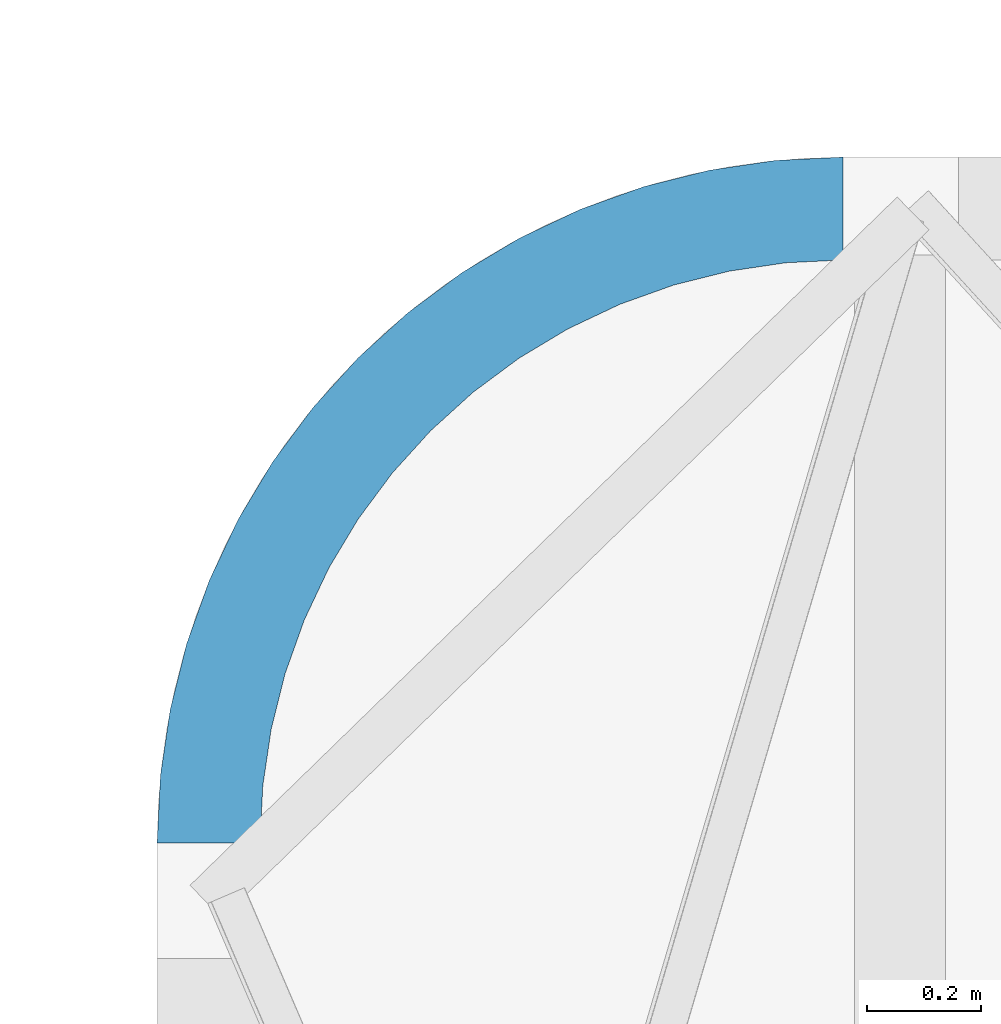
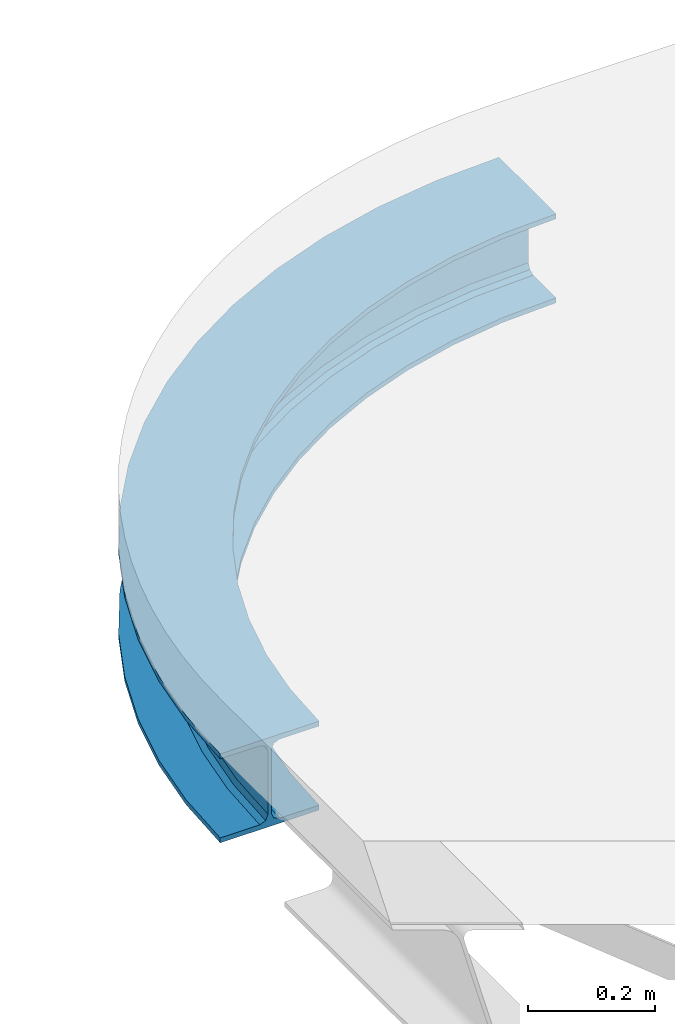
# One storey, part 13 of 14: 1 beam.
"""IFC2X3 building model written with IfcOpenShell, lengths in millimetres."""

from ifc_helpers import new_model, entity, si_unit, converted_unit, derived_unit, direction, frame, origin, place, context, subcontext, project, spatial, faceted_brep, material, type_object, element, save


model = new_model("IFC2X3")

# Units and contexts
model_context = context("Model", 3, precision=0.01, world=origin(), true_north=direction((6.123031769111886e-17, 1.0)))
body_context = subcontext(model_context, "Body", "Model", "MODEL_VIEW")
ifc_project = project(units=[si_unit("LENGTHUNIT", "METRE", prefix="MILLI"), si_unit("AREAUNIT", "SQUARE_METRE"), si_unit("VOLUMEUNIT", "CUBIC_METRE"), derived_unit("MASSDENSITYUNIT", [(si_unit("MASSUNIT", "GRAM", prefix="KILO"), 1), (si_unit("LENGTHUNIT", "METRE"), -3)]), si_unit("MASSUNIT", "GRAM", prefix="KILO"), converted_unit("PLANEANGLEUNIT", "DEGREE", entity("IfcPlaneAngleMeasure", 0.017453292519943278), si_unit("PLANEANGLEUNIT", "RADIAN"), dimensions=[0, 0, 0, 0, 0, 0, 0])], contexts=[model_context])

# Site, building, storey
site_placement = place(None, origin())
site = spatial("IfcSite", under=ifc_project, at=site_placement, Name="Default", CompositionType="ELEMENT")
building_placement = place(site_placement, origin())
building = spatial("IfcBuilding", under=site, at=building_placement, Name="AT constructie", CompositionType="ELEMENT")
storey_placement = place(building_placement, frame((0.0, 0.0, 12043.0)))
storey = spatial("IfcBuildingStorey", under=building, at=storey_placement, Name="03 derde verdieping", CompositionType="ELEMENT", Elevation=12043.0)

# Beam
ifc_material = material(Name="h2_staal_S355")
beam_type = type_object("IfcBeamType", Name="balk HE_gen_HEA180", PredefinedType="NOTDEFINED")
beam_placement = place(storey_placement, frame((85626.87463111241, 30191.043508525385, 0.0), z_axis=(0.0, 0.0, 1.0), x_axis=(-1.0, 0.0, 0.0)))
element("IfcBeam", 1, at=beam_placement, inside=storey, type_object=beam_type, material=ifc_material, Name="NLRS_28_SF_LIB_balk HEA_gen_AT:balk HE_gen_HEA180", ObjectType="NLRS_28_SF_LIB_balk HEA_gen_AT:balk HE_gen_HEA180", context=body_context, shape_type="Brep", body=[
    faceted_brep([(117.62056839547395, -1194.221672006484, 0.0), (99.97748313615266, -1015.088421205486, 0.0), (0.0, -1020.0, 0.0), (0.0, -1200.0, 0.0), (99.97748313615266, -1015.088421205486, -9.500000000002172), (0.0, -1020.0, -9.500000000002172), (107.03471723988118, -1086.7417215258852, -9.500000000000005), (0.0, -1092.0, -9.500000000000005), (108.0743460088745, -1097.2972495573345, -13.893398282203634), (0.0, -1102.6066017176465, -13.893398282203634), (108.50497434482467, -1101.669492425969, -24.500000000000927), (0.0, -1107.0, -24.500000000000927), (108.50497434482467, -1101.669492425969, -146.50000000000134), (0.0, -1107.0, -146.50000000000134), (108.0743460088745, -1097.2972495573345, -157.10660171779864), (0.0, -1102.6066017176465, -157.10660171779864), (107.03471723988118, -1086.7417215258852, -161.50000000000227), (0.0, -1092.0, -161.50000000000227), (99.97748313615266, -1015.088421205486, -161.50000000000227), (0.0, -1020.0, -161.50000000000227), (99.97748313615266, -1015.088421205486, -171.0), (0.0, -1020.0, -171.0), (117.62056839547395, -1194.221672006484, -171.0), (0.0, -1200.0, -171.0), (117.62056839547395, -1194.221672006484, -161.50000000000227), (0.0, -1200.0, -161.50000000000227), (110.56333429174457, -1122.568371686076, -161.50000000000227), (0.0, -1128.0, -161.50000000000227), (109.52370552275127, -1112.0128436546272, -157.10660171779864), (0.0, -1117.3933982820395, -157.10660171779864), (109.0930771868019, -1107.6406007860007, -146.50000000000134), (0.0, -1113.0, -146.50000000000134), (109.09307718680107, -1107.6406007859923, -24.500000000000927), (0.0, -1113.0, -24.500000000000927), (109.52370552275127, -1112.0128436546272, -13.893398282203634), (0.0, -1117.3933982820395, -13.893398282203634), (110.56333429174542, -1122.5683716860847, -9.500000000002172), (0.0, -1128.0, -9.500000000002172), (117.62056839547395, -1194.221672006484, -9.500000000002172), (0.0, -1200.0, -9.500000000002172), (234.1083864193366, -1176.9423364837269, 0.0), (198.99212845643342, -1000.4009860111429, 0.0), (198.99212845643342, -1000.4009860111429, -9.500000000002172), (213.03863164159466, -1071.0175262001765, -9.500000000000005), (215.10787698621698, -1081.4203250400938, -13.893398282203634), (215.96498647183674, -1085.7293054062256, -24.500000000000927), (215.96498647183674, -1085.7293054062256, -146.50000000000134), (215.10787698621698, -1081.4203250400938, -157.10660171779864), (213.03863164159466, -1071.0175262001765, -161.50000000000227), (198.99212845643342, -1000.4009860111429, -161.50000000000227), (198.99212845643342, -1000.4009860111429, -171.0), (234.1083864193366, -1176.9423364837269, -171.0), (234.1083864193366, -1176.9423364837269, -161.50000000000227), (220.0618832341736, -1106.3257962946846, -161.50000000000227), (217.99263788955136, -1095.9229974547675, -157.10660171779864), (217.13552840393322, -1091.6140170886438, -146.50000000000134), (217.13552840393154, -1091.6140170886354, -24.500000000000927), (217.99263788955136, -1095.9229974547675, -13.893398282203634), (220.0618832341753, -1106.325796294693, -9.500000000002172), (234.1083864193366, -1176.9423364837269, -9.500000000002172), (348.3416127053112, -1148.328402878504, 0.0), (296.0903707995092, -976.0791424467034, 0.0), (296.0903707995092, -976.0791424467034, -9.500000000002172), (316.99086756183, -1044.9788466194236, -9.500000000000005), (320.0698015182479, -1055.1287316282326, -13.893398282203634), (321.345137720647, -1059.3329516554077, -24.500000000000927), (321.345137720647, -1059.3329516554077, -146.50000000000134), (320.0698015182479, -1055.1287316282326, -157.10660171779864), (316.99086756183, -1044.9788466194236, -161.50000000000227), (296.0903707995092, -976.0791424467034, -161.50000000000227), (296.0903707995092, -976.0791424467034, -171.0), (348.3416127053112, -1148.328402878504, -171.0), (348.3416127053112, -1148.328402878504, -161.50000000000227), (327.44111594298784, -1079.4286987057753, -161.50000000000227), (324.36218198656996, -1069.2788136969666, -157.10660171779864), (323.08684578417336, -1065.0745936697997, -146.50000000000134), (323.08684578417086, -1065.0745936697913, -24.500000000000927), (324.36218198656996, -1069.2788136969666, -13.893398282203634), (327.44111594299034, -1079.4286987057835, -9.500000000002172), (348.3416127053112, -1148.328402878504, -9.500000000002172), (459.22011883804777, -1108.6554390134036, 0.0), (390.3371010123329, -942.3571231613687, 0.0), (390.3371010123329, -942.3571231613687, -9.500000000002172), (417.8903081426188, -1008.8764495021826, -9.500000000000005), (421.9492788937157, -1018.6756717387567, -13.893398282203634), (423.63055962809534, -1022.7346424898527, -24.500000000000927), (423.63055962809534, -1022.7346424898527, -146.50000000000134), (421.9492788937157, -1018.6756717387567, -157.10660171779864), (417.8903081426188, -1008.8764495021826, -161.50000000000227), (390.3371010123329, -942.3571231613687, -161.50000000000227), (390.3371010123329, -942.3571231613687, -171.0), (459.22011883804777, -1108.6554390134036, -171.0), (459.22011883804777, -1108.6554390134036, -161.50000000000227), (431.66691170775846, -1042.1361126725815, -161.50000000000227), (427.6079409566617, -1032.3368904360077, -157.10660171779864), (425.92666022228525, -1028.2779196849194, -146.50000000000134), (425.92666022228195, -1028.2779196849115, -24.500000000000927), (427.6079409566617, -1032.3368904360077, -13.893398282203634), (431.66691170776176, -1042.1361126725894, -9.500000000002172), (459.22011883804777, -1108.6554390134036, -9.500000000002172), (565.6760841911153, -1058.3055172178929, 0.0), (480.8246715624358, -899.559689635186, 0.0), (480.8246715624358, -899.559689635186, -9.500000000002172), (514.7652366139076, -963.0580206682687, -9.500000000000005), (519.7651540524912, -972.41220826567, -13.893398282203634), (521.8361876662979, -976.2868396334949, -24.500000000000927), (521.8361876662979, -976.2868396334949, -146.50000000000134), (519.7651540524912, -972.41220826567, -157.10660171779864), (514.7652366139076, -963.0580206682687, -161.50000000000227), (480.8246715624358, -899.559689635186, -161.50000000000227), (480.8246715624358, -899.559689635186, -171.0), (565.6760841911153, -1058.3055172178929, -171.0), (565.6760841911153, -1058.3055172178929, -161.50000000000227), (531.7355191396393, -994.8071861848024, -161.50000000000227), (526.7356017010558, -985.4529985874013, -157.10660171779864), (524.6645680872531, -981.5783672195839, -146.50000000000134), (524.664568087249, -981.5783672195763, -24.500000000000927), (526.7356017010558, -985.4529985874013, -13.893398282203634), (531.7355191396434, -994.80718618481, -9.500000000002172), (565.6760841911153, -1058.3055172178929, -9.500000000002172), (666.6842796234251, -997.7635347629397, 0.0), (566.6816376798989, -848.0990045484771, 0.0), (566.6816376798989, -848.0990045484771, -9.500000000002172), (606.6826944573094, -907.9648166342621, -9.500000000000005), (612.5754066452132, -916.7838836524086, -13.893398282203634), (615.0162479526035, -920.4368608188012, -24.500000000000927), (615.0162479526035, -920.4368608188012, -146.50000000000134), (612.5754066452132, -916.7838836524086, -157.10660171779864), (606.6826944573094, -907.9648166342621, -161.50000000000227), (566.6816376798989, -848.0990045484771, -161.50000000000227), (566.6816376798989, -848.0990045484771, -171.0), (666.6842796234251, -997.7635347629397, -171.0), (666.6842796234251, -997.7635347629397, -161.50000000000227), (626.6832228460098, -937.8977226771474, -161.50000000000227), (620.7905106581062, -929.078655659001, -157.10660171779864), (618.3496693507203, -925.4256784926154, -146.50000000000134), (618.3496693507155, -925.4256784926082, -24.500000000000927), (620.7905106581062, -929.078655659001, -13.893398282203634), (626.6832228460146, -937.8977226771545, -9.500000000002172), (666.6842796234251, -997.7635347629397, -9.500000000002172), (761.271940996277, -927.6125440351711, 0.0), (647.0811498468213, -788.4706624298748, 0.0), (647.0811498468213, -788.4706624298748, -9.500000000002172), (692.7574663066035, -844.1274150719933, -9.500000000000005), (699.4862232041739, -852.3264290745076, -13.893398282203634), (702.2733655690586, -855.7225718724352, -24.500000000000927), (702.2733655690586, -855.7225718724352, -146.50000000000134), (699.4862232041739, -852.3264290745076, -157.10660171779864), (692.7574663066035, -844.1274150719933, -161.50000000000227), (647.0811498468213, -788.4706624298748, -161.50000000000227), (647.0811498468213, -788.4706624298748, -171.0), (761.271940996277, -927.6125440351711, -171.0), (761.271940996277, -927.6125440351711, -161.50000000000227), (715.5956245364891, -871.9557913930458, -161.50000000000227), (708.8668676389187, -863.7567773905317, -157.10660171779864), (706.0797252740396, -860.3606345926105, -146.50000000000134), (706.0797252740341, -860.3606345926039, -24.500000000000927), (708.8668676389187, -863.7567773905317, -13.893398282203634), (715.5956245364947, -871.9557913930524, -9.500000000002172), (761.271940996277, -927.6125440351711, -9.500000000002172), (848.528137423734, -848.5281374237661, 0.0), (721.2489168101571, -721.2489168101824, 0.0), (721.2489168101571, -721.2489168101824, -9.500000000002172), (772.1606050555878, -772.1606050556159, -9.500000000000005), (779.6606050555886, -779.660605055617, -13.893398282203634), (782.7672067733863, -782.7672067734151, -24.500000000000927), (782.7672067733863, -782.7672067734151, -146.50000000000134), (779.6606050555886, -779.660605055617, -157.10660171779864), (772.1606050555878, -772.1606050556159, -161.50000000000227), (721.2489168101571, -721.2489168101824, -161.50000000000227), (721.2489168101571, -721.2489168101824, -171.0), (848.528137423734, -848.5281374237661, -171.0), (848.528137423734, -848.5281374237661, -161.50000000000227), (797.616449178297, -797.6164491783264, -161.50000000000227), (790.1164491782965, -790.1164491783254, -157.10660171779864), (787.0098474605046, -787.0098474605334, -146.50000000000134), (787.0098474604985, -787.0098474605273, -24.500000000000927), (790.1164491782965, -790.1164491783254, -13.893398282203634), (797.6164491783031, -797.6164491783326, -9.500000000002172), (848.528137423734, -848.5281374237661, -9.500000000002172), (927.6125440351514, -761.2719409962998, 0.0), (788.47066242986, -647.0811498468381, 0.0), (788.47066242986, -647.0811498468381, -9.500000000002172), (844.1274150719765, -692.7574663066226, -9.500000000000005), (852.3264290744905, -699.4862232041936, -13.893398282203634), (855.722571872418, -702.2733655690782, -24.500000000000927), (855.722571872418, -702.2733655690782, -146.50000000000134), (852.3264290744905, -699.4862232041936, -157.10660171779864), (844.1274150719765, -692.7574663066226, -161.50000000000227), (788.47066242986, -647.0811498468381, -161.50000000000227), (788.47066242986, -647.0811498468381, -171.0), (927.6125440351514, -761.2719409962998, -171.0), (927.6125440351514, -761.2719409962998, -161.50000000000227), (871.9557913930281, -715.5956245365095, -161.50000000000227), (863.7567773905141, -708.8668676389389, -157.10660171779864), (860.3606345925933, -706.0797252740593, -146.50000000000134), (860.3606345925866, -706.0797252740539, -24.500000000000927), (863.7567773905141, -708.8668676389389, -13.893398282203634), (871.9557913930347, -715.595624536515, -9.500000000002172), (927.6125440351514, -761.2719409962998, -9.500000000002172), (997.7635347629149, -666.6842796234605, 0.0), (848.0990045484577, -566.6816376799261, 0.0), (848.0990045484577, -566.6816376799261, -9.500000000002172), (907.9648166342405, -606.6826944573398, -9.500000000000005), (916.7838836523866, -612.575406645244, -13.893398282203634), (920.4368608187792, -615.0162479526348, -24.500000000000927), (920.4368608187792, -615.0162479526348, -146.50000000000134), (916.7838836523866, -612.575406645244, -157.10660171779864), (907.9648166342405, -606.6826944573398, -161.50000000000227), (848.0990045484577, -566.6816376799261, -161.50000000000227), (848.0990045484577, -566.6816376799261, -171.0), (997.7635347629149, -666.6842796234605, -171.0), (997.7635347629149, -666.6842796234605, -161.50000000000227), (937.8977226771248, -626.6832228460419, -161.50000000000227), (929.0786556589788, -620.7905106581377, -157.10660171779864), (925.4256784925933, -618.3496693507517, -146.50000000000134), (925.425678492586, -618.3496693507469, -24.500000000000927), (929.0786556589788, -620.7905106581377, -13.893398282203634), (937.8977226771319, -626.6832228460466, -9.500000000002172), (997.7635347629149, -666.6842796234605, -9.500000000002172), (1058.305517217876, -565.6760841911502, 0.0), (899.5596896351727, -480.8246715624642, 0.0), (899.5596896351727, -480.8246715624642, -9.500000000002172), (963.0580206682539, -514.7652366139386, -9.500000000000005), (972.4122082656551, -519.7651540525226, -13.893398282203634), (976.28683963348, -521.8361876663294, -24.500000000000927), (976.28683963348, -521.8361876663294, -146.50000000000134), (972.4122082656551, -519.7651540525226, -157.10660171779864), (963.0580206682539, -514.7652366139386, -161.50000000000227), (899.5596896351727, -480.8246715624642, -161.50000000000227), (899.5596896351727, -480.8246715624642, -171.0), (1058.305517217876, -565.6760841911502, -171.0), (1058.305517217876, -565.6760841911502, -161.50000000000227), (994.807186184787, -531.7355191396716, -161.50000000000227), (985.4529985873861, -526.7356017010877, -157.10660171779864), (981.5783672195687, -524.6645680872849, -146.50000000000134), (981.5783672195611, -524.6645680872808, -24.500000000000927), (985.4529985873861, -526.7356017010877, -13.893398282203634), (994.8071861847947, -531.7355191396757, -9.500000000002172), (1058.305517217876, -565.6760841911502, -9.500000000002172), (1108.655439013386, -459.22011883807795, 0.0), (942.3571231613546, -390.33710101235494, 0.0), (942.3571231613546, -390.33710101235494, -9.500000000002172), (1008.876449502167, -417.8903081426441, -9.500000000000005), (1018.675671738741, -421.9492788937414, -13.893398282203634), (1022.734642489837, -423.63055962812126, -24.500000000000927), (1022.734642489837, -423.63055962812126, -146.50000000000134), (1018.675671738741, -421.9492788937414, -157.10660171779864), (1008.876449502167, -417.8903081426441, -161.50000000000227), (942.3571231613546, -390.33710101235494, -161.50000000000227), (942.3571231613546, -390.33710101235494, -171.0), (1108.655439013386, -459.22011883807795, -171.0), (1108.655439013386, -459.22011883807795, -161.50000000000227), (1042.1361126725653, -431.66691170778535, -161.50000000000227), (1032.3368904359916, -427.6079409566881, -157.10660171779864), (1028.2779196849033, -425.9266602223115, -146.50000000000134), (1028.2779196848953, -425.92666022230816, -24.500000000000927), (1032.3368904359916, -427.6079409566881, -13.893398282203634), (1042.1361126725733, -431.66691170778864, -9.500000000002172), (1108.655439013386, -459.22011883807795, -9.500000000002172), (1148.32840287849, -348.3416127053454, 0.0), (976.079142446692, -296.09037079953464, 0.0), (976.079142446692, -296.09037079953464, -9.500000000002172), (1044.9788466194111, -316.9908675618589, -9.500000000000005), (1055.1287316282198, -320.0698015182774, -13.893398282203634), (1059.332951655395, -321.3451377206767, -24.500000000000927), (1059.332951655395, -321.3451377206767, -146.50000000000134), (1055.1287316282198, -320.0698015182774, -157.10660171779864), (1044.9788466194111, -316.9908675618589, -161.50000000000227), (976.079142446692, -296.09037079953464, -161.50000000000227), (976.079142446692, -296.09037079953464, -171.0), (1148.32840287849, -348.3416127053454, -171.0), (1148.32840287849, -348.3416127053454, -161.50000000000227), (1079.4286987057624, -327.4411159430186, -161.50000000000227), (1069.2788136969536, -324.36218198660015, -157.10660171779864), (1065.0745936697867, -323.08684578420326, -146.50000000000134), (1065.0745936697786, -323.08684578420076, -24.500000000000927), (1069.2788136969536, -324.36218198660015, -13.893398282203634), (1079.4286987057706, -327.4411159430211, -9.500000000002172), (1148.32840287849, -348.3416127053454, -9.500000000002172), (1176.9423364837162, -234.10838641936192, 0.0), (1000.4009860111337, -198.99212845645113, 0.0), (1000.4009860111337, -198.99212845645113, -9.500000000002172), (1071.0175262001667, -213.0386316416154, -9.500000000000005), (1081.420325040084, -215.1078769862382, -13.893398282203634), (1085.7293054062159, -215.96498647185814, -24.500000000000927), (1085.7293054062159, -215.96498647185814, -146.50000000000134), (1081.420325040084, -215.1078769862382, -157.10660171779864), (1071.0175262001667, -213.0386316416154, -161.50000000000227), (1000.4009860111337, -198.99212845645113, -161.50000000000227), (1000.4009860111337, -198.99212845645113, -171.0), (1176.9423364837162, -234.10838641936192, -171.0), (1176.9423364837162, -234.10838641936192, -161.50000000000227), (1106.3257962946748, -220.0618832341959, -161.50000000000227), (1095.9229974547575, -217.99263788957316, -157.10660171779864), (1091.614017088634, -217.13552840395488, -146.50000000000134), (1091.6140170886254, -217.1355284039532, -24.500000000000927), (1095.9229974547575, -217.99263788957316, -13.893398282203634), (1106.3257962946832, -220.06188323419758, -9.500000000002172), (1176.9423364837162, -234.10838641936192, -9.500000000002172), (1194.221672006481, -117.62056839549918, 0.0), (1015.0884212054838, -99.97748313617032, 0.0), (1015.0884212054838, -99.97748313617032, -9.500000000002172), (1086.7417215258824, -107.03471723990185, -9.500000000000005), (1097.2972495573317, -108.07434600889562, -13.893398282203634), (1101.6694924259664, -108.50497434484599, -24.500000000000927), (1101.6694924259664, -108.50497434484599, -146.50000000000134), (1097.2972495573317, -108.07434600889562, -157.10660171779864), (1086.7417215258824, -107.03471723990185, -161.50000000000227), (1015.0884212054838, -99.97748313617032, -161.50000000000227), (1015.0884212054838, -99.97748313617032, -171.0), (1194.221672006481, -117.62056839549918, -171.0), (1194.221672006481, -117.62056839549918, -161.50000000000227), (1122.5683716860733, -110.56333429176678, -161.50000000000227), (1112.0128436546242, -109.52370552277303, -157.10660171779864), (1107.640600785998, -109.09307718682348, -146.50000000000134), (1107.6406007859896, -109.09307718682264, -24.500000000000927), (1112.0128436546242, -109.52370552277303, -13.893398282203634), (1122.568371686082, -110.56333429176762, -9.500000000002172), (1194.221672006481, -117.62056839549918, -9.500000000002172), (1200.0, 0.0, 0.0), (1020.0, 0.0, 0.0), (1020.0, 0.0, -9.500000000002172), (1092.0, 0.0, -9.500000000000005), (1102.606601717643, 0.0, -13.893398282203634), (1107.0, 0.0, -24.500000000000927), (1107.0, 0.0, -146.50000000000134), (1102.606601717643, 0.0, -157.10660171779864), (1092.0, 0.0, -161.50000000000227), (1020.0, 0.0, -161.50000000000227), (1020.0, 0.0, -171.0), (1200.0, 0.0, -171.0), (1200.0, 0.0, -161.50000000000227), (1128.0, 0.0, -161.50000000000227), (1117.3933982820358, 0.0, -157.10660171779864), (1113.0, 0.0, -146.50000000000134), (1113.0, 0.0, -24.500000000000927), (1117.3933982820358, 0.0, -13.893398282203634), (1128.0, 0.0, -9.500000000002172), (1200.0, 0.0, -9.500000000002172)], [[[0, 1, 2, 3]], [[1, 4, 5, 2]], [[4, 6, 7, 5]], [[6, 8, 9, 7]], [[8, 10, 11, 9]], [[10, 12, 13, 11]], [[12, 14, 15, 13]], [[14, 16, 17, 15]], [[16, 18, 19, 17]], [[18, 20, 21, 19]], [[20, 22, 23, 21]], [[22, 24, 25, 23]], [[24, 26, 27, 25]], [[26, 28, 29, 27]], [[28, 30, 31, 29]], [[30, 32, 33, 31]], [[32, 34, 35, 33]], [[34, 36, 37, 35]], [[36, 38, 39, 37]], [[38, 0, 3, 39]], [[40, 41, 1, 0]], [[41, 42, 4, 1]], [[42, 43, 6, 4]], [[43, 44, 8, 6]], [[44, 45, 10, 8]], [[45, 46, 12, 10]], [[46, 47, 14, 12]], [[47, 48, 16, 14]], [[48, 49, 18, 16]], [[49, 50, 20, 18]], [[50, 51, 22, 20]], [[51, 52, 24, 22]], [[52, 53, 26, 24]], [[53, 54, 28, 26]], [[54, 55, 30, 28]], [[55, 56, 32, 30]], [[56, 57, 34, 32]], [[57, 58, 36, 34]], [[58, 59, 38, 36]], [[59, 40, 0, 38]], [[60, 61, 41, 40]], [[61, 62, 42, 41]], [[62, 63, 43, 42]], [[63, 64, 44, 43]], [[64, 65, 45, 44]], [[65, 66, 46, 45]], [[66, 67, 47, 46]], [[67, 68, 48, 47]], [[68, 69, 49, 48]], [[69, 70, 50, 49]], [[70, 71, 51, 50]], [[71, 72, 52, 51]], [[72, 73, 53, 52]], [[73, 74, 54, 53]], [[74, 75, 55, 54]], [[75, 76, 56, 55]], [[76, 77, 57, 56]], [[77, 78, 58, 57]], [[78, 79, 59, 58]], [[79, 60, 40, 59]], [[80, 81, 61, 60]], [[81, 82, 62, 61]], [[82, 83, 63, 62]], [[83, 84, 64, 63]], [[84, 85, 65, 64]], [[85, 86, 66, 65]], [[86, 87, 67, 66]], [[87, 88, 68, 67]], [[88, 89, 69, 68]], [[89, 90, 70, 69]], [[90, 91, 71, 70]], [[91, 92, 72, 71]], [[92, 93, 73, 72]], [[93, 94, 74, 73]], [[94, 95, 75, 74]], [[95, 96, 76, 75]], [[96, 97, 77, 76]], [[97, 98, 78, 77]], [[98, 99, 79, 78]], [[99, 80, 60, 79]], [[100, 101, 81, 80]], [[101, 102, 82, 81]], [[102, 103, 83, 82]], [[103, 104, 84, 83]], [[104, 105, 85, 84]], [[105, 106, 86, 85]], [[106, 107, 87, 86]], [[107, 108, 88, 87]], [[108, 109, 89, 88]], [[109, 110, 90, 89]], [[110, 111, 91, 90]], [[111, 112, 92, 91]], [[112, 113, 93, 92]], [[113, 114, 94, 93]], [[114, 115, 95, 94]], [[115, 116, 96, 95]], [[116, 117, 97, 96]], [[117, 118, 98, 97]], [[118, 119, 99, 98]], [[119, 100, 80, 99]], [[120, 121, 101, 100]], [[121, 122, 102, 101]], [[122, 123, 103, 102]], [[123, 124, 104, 103]], [[124, 125, 105, 104]], [[125, 126, 106, 105]], [[126, 127, 107, 106]], [[127, 128, 108, 107]], [[128, 129, 109, 108]], [[129, 130, 110, 109]], [[130, 131, 111, 110]], [[131, 132, 112, 111]], [[132, 133, 113, 112]], [[133, 134, 114, 113]], [[134, 135, 115, 114]], [[135, 136, 116, 115]], [[136, 137, 117, 116]], [[137, 138, 118, 117]], [[138, 139, 119, 118]], [[139, 120, 100, 119]], [[140, 141, 121, 120]], [[141, 142, 122, 121]], [[142, 143, 123, 122]], [[143, 144, 124, 123]], [[144, 145, 125, 124]], [[145, 146, 126, 125]], [[146, 147, 127, 126]], [[147, 148, 128, 127]], [[148, 149, 129, 128]], [[149, 150, 130, 129]], [[150, 151, 131, 130]], [[151, 152, 132, 131]], [[152, 153, 133, 132]], [[153, 154, 134, 133]], [[154, 155, 135, 134]], [[155, 156, 136, 135]], [[156, 157, 137, 136]], [[157, 158, 138, 137]], [[158, 159, 139, 138]], [[159, 140, 120, 139]], [[160, 161, 141, 140]], [[161, 162, 142, 141]], [[162, 163, 143, 142]], [[163, 164, 144, 143]], [[164, 165, 145, 144]], [[165, 166, 146, 145]], [[166, 167, 147, 146]], [[167, 168, 148, 147]], [[168, 169, 149, 148]], [[169, 170, 150, 149]], [[170, 171, 151, 150]], [[171, 172, 152, 151]], [[172, 173, 153, 152]], [[173, 174, 154, 153]], [[174, 175, 155, 154]], [[175, 176, 156, 155]], [[176, 177, 157, 156]], [[177, 178, 158, 157]], [[178, 179, 159, 158]], [[179, 160, 140, 159]], [[180, 181, 161, 160]], [[181, 182, 162, 161]], [[182, 183, 163, 162]], [[183, 184, 164, 163]], [[184, 185, 165, 164]], [[185, 186, 166, 165]], [[186, 187, 167, 166]], [[187, 188, 168, 167]], [[188, 189, 169, 168]], [[189, 190, 170, 169]], [[190, 191, 171, 170]], [[191, 192, 172, 171]], [[192, 193, 173, 172]], [[193, 194, 174, 173]], [[194, 195, 175, 174]], [[195, 196, 176, 175]], [[196, 197, 177, 176]], [[197, 198, 178, 177]], [[198, 199, 179, 178]], [[199, 180, 160, 179]], [[200, 201, 181, 180]], [[201, 202, 182, 181]], [[202, 203, 183, 182]], [[203, 204, 184, 183]], [[204, 205, 185, 184]], [[205, 206, 186, 185]], [[206, 207, 187, 186]], [[207, 208, 188, 187]], [[208, 209, 189, 188]], [[209, 210, 190, 189]], [[210, 211, 191, 190]], [[211, 212, 192, 191]], [[212, 213, 193, 192]], [[213, 214, 194, 193]], [[214, 215, 195, 194]], [[215, 216, 196, 195]], [[216, 217, 197, 196]], [[217, 218, 198, 197]], [[218, 219, 199, 198]], [[219, 200, 180, 199]], [[220, 221, 201, 200]], [[221, 222, 202, 201]], [[222, 223, 203, 202]], [[223, 224, 204, 203]], [[224, 225, 205, 204]], [[225, 226, 206, 205]], [[226, 227, 207, 206]], [[227, 228, 208, 207]], [[228, 229, 209, 208]], [[229, 230, 210, 209]], [[230, 231, 211, 210]], [[231, 232, 212, 211]], [[232, 233, 213, 212]], [[233, 234, 214, 213]], [[234, 235, 215, 214]], [[235, 236, 216, 215]], [[236, 237, 217, 216]], [[237, 238, 218, 217]], [[238, 239, 219, 218]], [[239, 220, 200, 219]], [[240, 241, 221, 220]], [[241, 242, 222, 221]], [[242, 243, 223, 222]], [[243, 244, 224, 223]], [[244, 245, 225, 224]], [[245, 246, 226, 225]], [[246, 247, 227, 226]], [[247, 248, 228, 227]], [[248, 249, 229, 228]], [[249, 250, 230, 229]], [[250, 251, 231, 230]], [[251, 252, 232, 231]], [[252, 253, 233, 232]], [[253, 254, 234, 233]], [[254, 255, 235, 234]], [[255, 256, 236, 235]], [[256, 257, 237, 236]], [[257, 258, 238, 237]], [[258, 259, 239, 238]], [[259, 240, 220, 239]], [[260, 261, 241, 240]], [[261, 262, 242, 241]], [[262, 263, 243, 242]], [[263, 264, 244, 243]], [[264, 265, 245, 244]], [[265, 266, 246, 245]], [[266, 267, 247, 246]], [[267, 268, 248, 247]], [[268, 269, 249, 248]], [[269, 270, 250, 249]], [[270, 271, 251, 250]], [[271, 272, 252, 251]], [[272, 273, 253, 252]], [[273, 274, 254, 253]], [[274, 275, 255, 254]], [[275, 276, 256, 255]], [[276, 277, 257, 256]], [[277, 278, 258, 257]], [[278, 279, 259, 258]], [[279, 260, 240, 259]], [[280, 281, 261, 260]], [[281, 282, 262, 261]], [[282, 283, 263, 262]], [[283, 284, 264, 263]], [[284, 285, 265, 264]], [[285, 286, 266, 265]], [[286, 287, 267, 266]], [[287, 288, 268, 267]], [[288, 289, 269, 268]], [[289, 290, 270, 269]], [[290, 291, 271, 270]], [[291, 292, 272, 271]], [[292, 293, 273, 272]], [[293, 294, 274, 273]], [[294, 295, 275, 274]], [[295, 296, 276, 275]], [[296, 297, 277, 276]], [[297, 298, 278, 277]], [[298, 299, 279, 278]], [[299, 280, 260, 279]], [[300, 301, 281, 280]], [[301, 302, 282, 281]], [[302, 303, 283, 282]], [[303, 304, 284, 283]], [[304, 305, 285, 284]], [[305, 306, 286, 285]], [[306, 307, 287, 286]], [[307, 308, 288, 287]], [[308, 309, 289, 288]], [[309, 310, 290, 289]], [[310, 311, 291, 290]], [[311, 312, 292, 291]], [[312, 313, 293, 292]], [[313, 314, 294, 293]], [[314, 315, 295, 294]], [[315, 316, 296, 295]], [[316, 317, 297, 296]], [[317, 318, 298, 297]], [[318, 319, 299, 298]], [[319, 300, 280, 299]], [[320, 321, 301, 300]], [[321, 322, 302, 301]], [[322, 323, 303, 302]], [[323, 324, 304, 303]], [[324, 325, 305, 304]], [[325, 326, 306, 305]], [[326, 327, 307, 306]], [[327, 328, 308, 307]], [[328, 329, 309, 308]], [[329, 330, 310, 309]], [[330, 331, 311, 310]], [[331, 332, 312, 311]], [[332, 333, 313, 312]], [[333, 334, 314, 313]], [[334, 335, 315, 314]], [[335, 336, 316, 315]], [[336, 337, 317, 316]], [[337, 338, 318, 317]], [[338, 339, 319, 318]], [[339, 320, 300, 319]], [[3, 2, 5, 7, 9, 11, 13, 15, 17, 19, 21, 23, 25, 27, 29, 31, 33, 35, 37, 39]], [[339, 338, 337, 336, 335, 334, 333, 332, 331, 330, 329, 328, 327, 326, 325, 324, 323, 322, 321, 320]]]),
])

save(model, "model.ifc")
